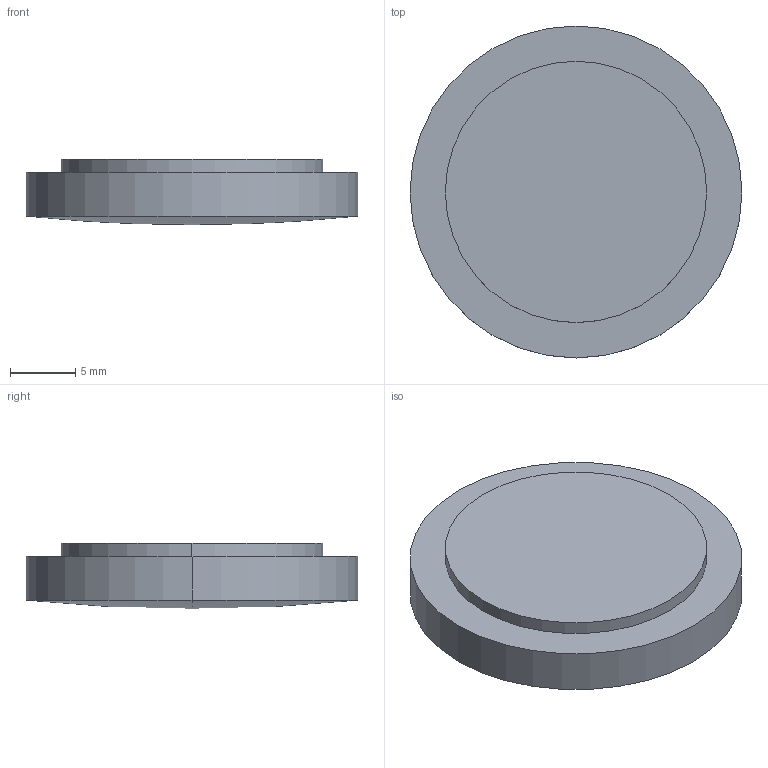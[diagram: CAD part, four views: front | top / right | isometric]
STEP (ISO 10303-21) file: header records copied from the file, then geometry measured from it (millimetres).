
FILE_DESCRIPTION(('STEP AP214'),'1');
FILE_NAME('LLR-25300.STEP','2020-03-09T17:41:59',(' '),(' '),'Spatial InterOp 3D',' ',' ');
FILE_SCHEMA(('AUTOMOTIVE_DESIGN { 1 0 10303 214 1 1 1 1 }'));
Length unit declared in the file: millimetre
Products named in the file (1): 1
Bounding box: 25.4 x 25.4 x 5 mm (x, y, z)
Volume: 2176.8 mm3; surface area: 1973.3 mm2
Topology: 2 solids, 2 shells, 9 faces, 16 edges, 9 vertices
Faces by surface type: cylinder 4, plane 3, sphere 2
Entity records: 229 total; most frequent: DIRECTION 46, CARTESIAN_POINT 34, ORIENTED_EDGE 28, AXIS2_PLACEMENT_3D 21, EDGE_CURVE 14, CIRCLE 10, ADVANCED_FACE 9, FACE_OUTER_BOUND 9
